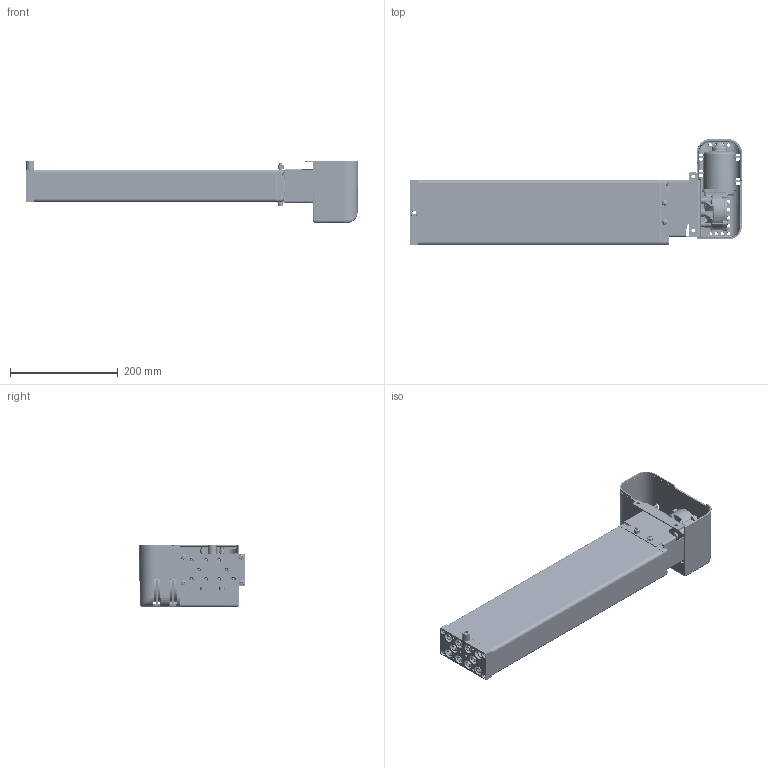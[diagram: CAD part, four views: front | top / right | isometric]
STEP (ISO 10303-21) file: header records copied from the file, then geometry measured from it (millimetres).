
FILE_DESCRIPTION(/* description */ ('Unknown'),/* implementation_level */ '2;1');
FILE_NAME(/* name */ '3X2.20182 Pumpe PB 9418 W mit Antrieb',/* time_stamp */ '2016-11-25T12:39:37+01:00',/* author */ ('Unknown'),/* organization */ ('Unknown'),/* preprocessor_version */ 'ST-DEVELOPER v16.7',/* originating_system */ 'DEX',/* authorisation */ $);
FILE_SCHEMA (('AUTOMOTIVE_DESIGN {1 0 10303 214 3 1 1}'));
Products named in the file (32): 102.00182; 115.10023; 125.00031; 115.00007; 142.00021; 125.00021; 142.00013; 125.00143; 115.00140; 126.00006; 122.00040; 119.00043; 126.00036; 127.00201; 127.00200; 127.00023; 124.00090; Getriebe; Ring; Schraube; Stator; Abdeckplatte; Antriebswelle; 128.00051; 123.00031; 142.00018; 142.00019; 142.00025; 142.00131; 123.00029; 142.00057; 142.00017
Assembly tree (52 placements, depth 3):
  102.00182
    115.10023  x9
      125.00031
      115.00007
      142.00021
      125.00021
    142.00013  x8
    125.00143
    115.00140
      126.00006
      122.00040
    119.00043
    126.00036
    127.00201
      127.00200
      127.00023
    124.00090
      Getriebe
      Ring
      Schraube
      Stator
      Abdeckplatte
      Antriebswelle
    128.00051
    123.00031
    142.00018  x2
    142.00019  x2
    142.00025  x2
    142.00131  x3
    123.00029
    142.00057
    142.00017  x2
Bounding box: 616.45 x 196.04 x 115.45 mm (x, y, z)
Volume: 1118309 mm3; surface area: 717800.6 mm2
Topology: 63 solids, 65 shells, 4415 faces, 11073 edges, 6795 vertices
Faces by surface type: plane 1379, cylinder 1195, bspline 1040, cone 504, torus 198, sphere 99
Full cylindrical faces by diameter (mm): 2.5 x4, 3.2 x4, 3.5 x9, 3.9 x5, 4.1 x9, 4.134 x4, 4.2 x11, 4.4 x5, 4.5 x1, 4.917 x4, 5 x8, 5.5 x5, 5.8 x4, 6 x8, 6.4 x2, 6.8 x6, 6.917 x18, 7 x1, 8 x20, 8.5 x6, 9 x11, 9.5 x1, 9.8 x8, 10 x10, 10.3 x1, 10.32 x1, 10.4 x1, 10.5 x4, 11 x5, 12.5 x9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
Entity records: 164944 total; most frequent: CARTESIAN_POINT 80621, ORIENTED_EDGE 16008, DIRECTION 12025, EDGE_CURVE 8004, VERTEX_POINT 5254, AXIS2_PLACEMENT_3D 4656, FACE_BOUND 4000, EDGE_LOOP 3995
